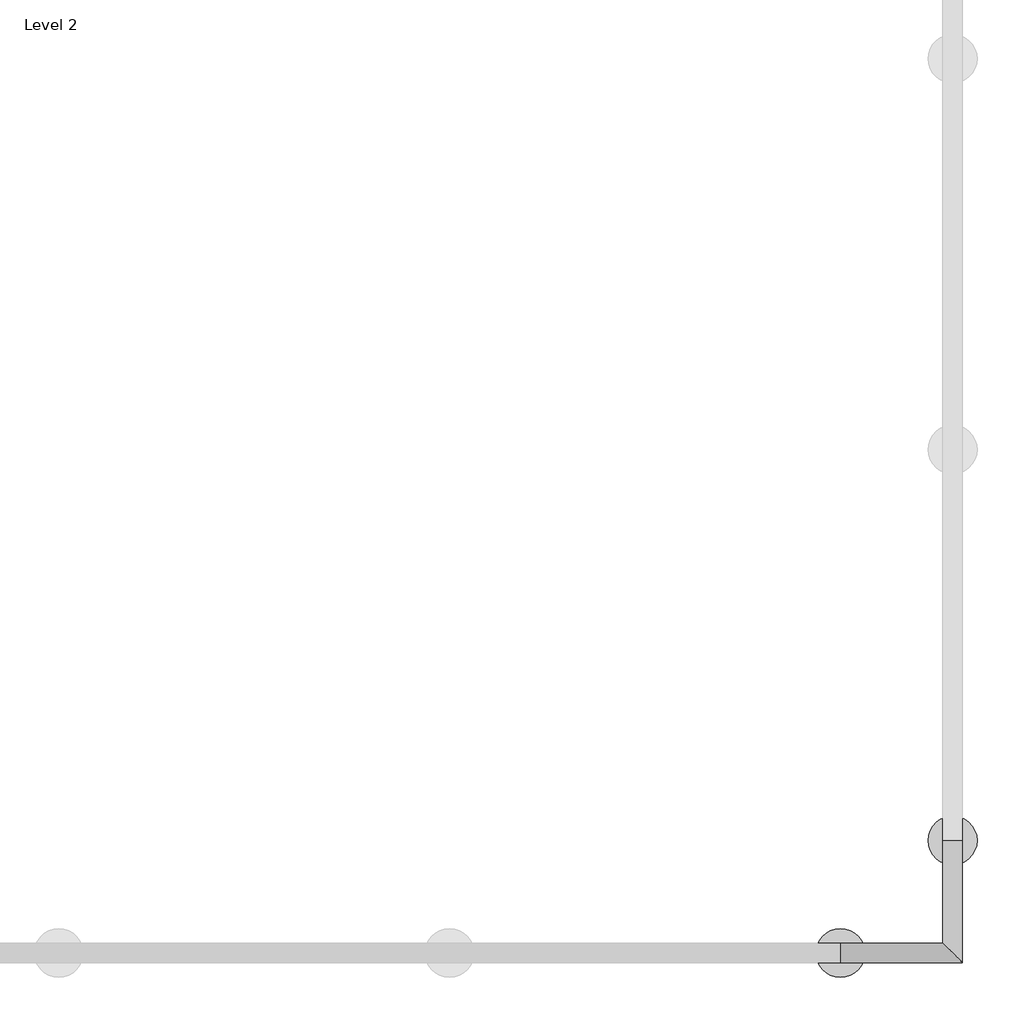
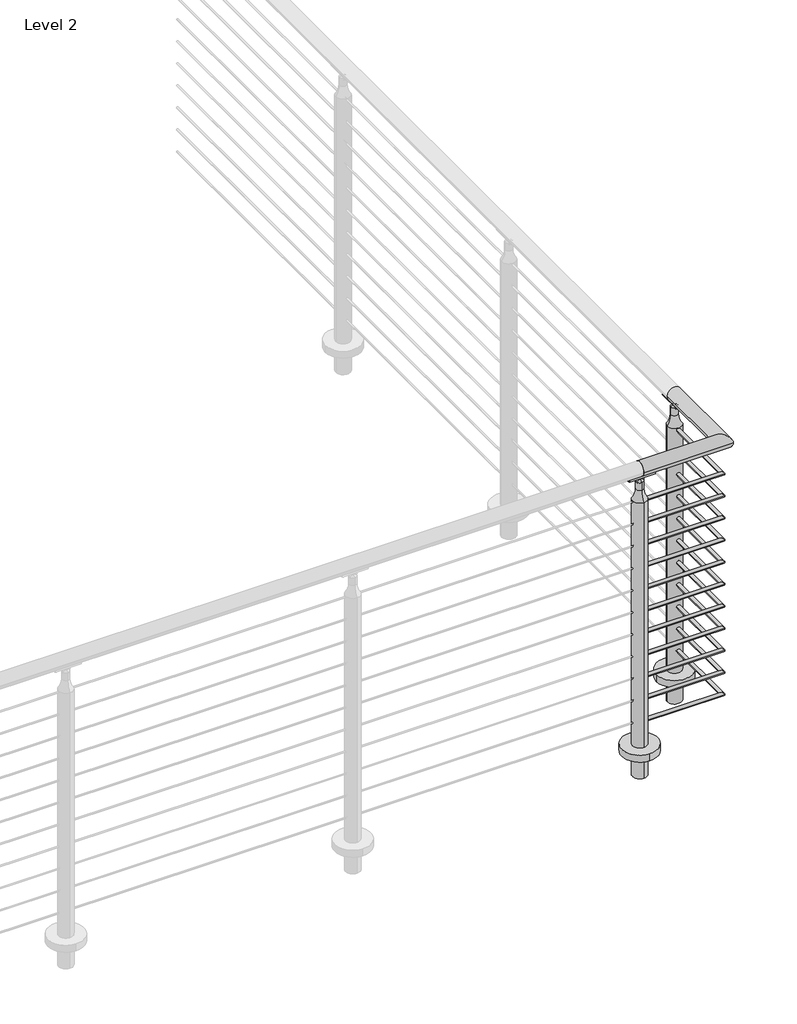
# One storey, part 20 of 21: 1 railing.
"""IFC4 building model written with IfcOpenShell, lengths in millimetres."""

from ifc_helpers import new_model, si_unit, point, frame, frame_2d, origin, place, context, project, spatial, polyline, circle_curve, ellipse_curve, trimmed, segment, composite_curve, outline, extrude, element, save
from ifc_brep_helpers import plane_surface, cylinder_surface, revolved_surface, advanced_brep

model = new_model("IFC4")

# Units and contexts
model_context = context("Model", 3, world=origin())
ifc_project = project(units=[si_unit("LENGTHUNIT", "METRE", prefix="MILLI")], contexts=[model_context])

# Site, building, storey
site = spatial("IfcSite", under=ifc_project)
building = spatial("IfcBuilding", under=site)
storey = spatial("IfcBuildingStorey", under=building, Name="Level 2", Elevation=3048.0)

# Railing
placement = place(None, origin())
element("IfcRailing", 1, ObjectType="VIVA-CIRCA-Cable-Core Mount-Corner", at=placement, inside=storey, context=model_context, shape_type="SolidModel", body=[
    advanced_brep(
    [(70803.1810647, -52130.1426165, 4102.1), (70803.1810647, -52079.3426165, 4102.1), (71120.6810647, -52130.1426165, 4102.1), (71069.8810647, -52079.3426165, 4102.1), (71120.6810647, -51812.6426165, 4102.1), (71069.8810647, -51812.6426165, 4102.1)],
    [
        (0, 1, circle_curve(frame((70803.1810647, -52104.7426165, 4102.1), z_axis=(-1.0, 0.0, 0.0), x_axis=(0.0, 1.0, 0.0)), 25.4)),
        (1, 0, circle_curve(frame((70803.1810647, -52104.7426165, 4102.1), z_axis=(-1.0, 0.0, 0.0), x_axis=(0.0, 1.0, 0.0)), 25.4)),
        (0, 2),
        (2, 3, ellipse_curve(frame((71095.2810647, -52104.7426165, 4102.1), z_axis=(-0.7071067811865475, -0.7071067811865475, 0.0), x_axis=(-0.7071067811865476, 0.7071067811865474, 0.0)), 35.9210245, 25.4)),
        (3, 1),
        (3, 2, ellipse_curve(frame((71095.2810647, -52104.7426165, 4102.1), z_axis=(-0.7071067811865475, -0.7071067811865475, 0.0), x_axis=(-0.7071067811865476, 0.7071067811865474, 0.0)), 35.9210245, 25.4)),
        (4, 5, circle_curve(frame((71095.2810647, -51812.6426165, 4102.1), z_axis=(0.0, 1.0, 0.0), x_axis=(-1.0, 0.0, 0.0)), 25.4)),
        (5, 4, circle_curve(frame((71095.2810647, -51812.6426165, 4102.1), z_axis=(0.0, 1.0, 0.0), x_axis=(-1.0, 0.0, 0.0)), 25.4)),
        (2, 4),
        (5, 3),
    ],
    [
        plane_surface(frame((70803.1810647, -52104.7426165, 4127.5), z_axis=(-1.0, 0.0, 0.0), x_axis=(0.0, 1.0, 0.0))),
        cylinder_surface(frame((70803.1810647, -52104.7426165, 4102.1), z_axis=(-1.0, 0.0, 0.0), x_axis=(0.0, 1.0, 0.0)), 25.4),
        plane_surface(frame((71095.2810647, -51812.6426165, 4127.5), z_axis=(0.0, 1.0, 0.0), x_axis=(0.0, 0.0, 1.0))),
        cylinder_surface(frame((71095.2810647, -52104.7426165, 4102.1), z_axis=(0.0, -1.0, 0.0), x_axis=(-1.0, 0.0, 0.0)), 25.4),
    ],
    [
        (0, [[1, 2]]),
        (1, [[-1, 3, 4, 5]]),
        (1, [[-2, -5, 6, -3]]),
        (2, [[7, 8]]),
        (3, [[-4, 9, -8, 10]]),
        (3, [[-6, -10, -7, -9]]),
    ],
),
    advanced_brep(
    [(70803.1810647, -52098.3926165, 3981.45), (70803.1810647, -52111.0926165, 3981.45), (71088.9310647, -52098.3926165, 3981.45), (71101.6310647, -52111.0926165, 3981.45), (71088.9310647, -51812.6426165, 3981.45), (71101.6310647, -51812.6426165, 3981.45)],
    [
        (0, 1, circle_curve(frame((70803.1810647, -52104.7426165, 3981.45), z_axis=(-1.0, 0.0, 0.0), x_axis=(0.0, -1.0, 0.0)), 6.35)),
        (1, 0, circle_curve(frame((70803.1810647, -52104.7426165, 3981.45), z_axis=(-1.0, 0.0, 0.0), x_axis=(0.0, -1.0, 0.0)), 6.35)),
        (0, 2),
        (2, 3, ellipse_curve(frame((71095.2810647, -52104.7426165, 3981.45), z_axis=(-0.7071067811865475, -0.7071067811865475, 0.0), x_axis=(-0.7071067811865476, 0.7071067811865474, 0.0)), 8.9802561, 6.35)),
        (3, 1),
        (3, 2, ellipse_curve(frame((71095.2810647, -52104.7426165, 3981.45), z_axis=(-0.7071067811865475, -0.7071067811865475, 0.0), x_axis=(-0.7071067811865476, 0.7071067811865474, 0.0)), 8.9802561, 6.35)),
        (4, 5, circle_curve(frame((71095.2810647, -51812.6426165, 3981.45), z_axis=(0.0, 1.0, 0.0), x_axis=(1.0, 0.0, 0.0)), 6.35)),
        (5, 4, circle_curve(frame((71095.2810647, -51812.6426165, 3981.45), z_axis=(0.0, 1.0, 0.0), x_axis=(1.0, 0.0, 0.0)), 6.35)),
        (2, 4),
        (5, 3),
    ],
    [
        plane_surface(frame((70803.1810647, -52104.7426165, 3987.8), z_axis=(-1.0, 0.0, 0.0), x_axis=(0.0, 1.0, 0.0))),
        cylinder_surface(frame((70803.1810647, -52104.7426165, 3981.45), z_axis=(-1.0, 0.0, 0.0), x_axis=(0.0, -1.0, 0.0)), 6.35),
        plane_surface(frame((71095.2810647, -51812.6426165, 3987.8), z_axis=(0.0, 1.0, 0.0), x_axis=(0.0, 0.0, 1.0))),
        cylinder_surface(frame((71095.2810647, -52104.7426165, 3981.45), z_axis=(0.0, -1.0, 0.0), x_axis=(1.0, 0.0, 0.0)), 6.35),
    ],
    [
        (0, [[1, 2]]),
        (1, [[-1, 3, 4, 5]]),
        (1, [[-2, -5, 6, -3]]),
        (2, [[7, 8]]),
        (3, [[-4, 9, -8, 10]]),
        (3, [[-6, -10, -7, -9]]),
    ],
),
    advanced_brep(
    [(70803.1810647, -52098.3926165, 3898.9), (70803.1810647, -52111.0926165, 3898.9), (71088.9310647, -52098.3926165, 3898.9), (71101.6310647, -52111.0926165, 3898.9), (71088.9310647, -51812.6426165, 3898.9), (71101.6310647, -51812.6426165, 3898.9)],
    [
        (0, 1, circle_curve(frame((70803.1810647, -52104.7426165, 3898.9), z_axis=(-1.0, 0.0, 0.0), x_axis=(0.0, -1.0, 0.0)), 6.35)),
        (1, 0, circle_curve(frame((70803.1810647, -52104.7426165, 3898.9), z_axis=(-1.0, 0.0, 0.0), x_axis=(0.0, -1.0, 0.0)), 6.35)),
        (0, 2),
        (2, 3, ellipse_curve(frame((71095.2810647, -52104.7426165, 3898.9), z_axis=(-0.7071067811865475, -0.7071067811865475, 0.0), x_axis=(-0.7071067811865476, 0.7071067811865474, 0.0)), 8.9802561, 6.35)),
        (3, 1),
        (3, 2, ellipse_curve(frame((71095.2810647, -52104.7426165, 3898.9), z_axis=(-0.7071067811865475, -0.7071067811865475, 0.0), x_axis=(-0.7071067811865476, 0.7071067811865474, 0.0)), 8.9802561, 6.35)),
        (4, 5, circle_curve(frame((71095.2810647, -51812.6426165, 3898.9), z_axis=(0.0, 1.0, 0.0), x_axis=(1.0, 0.0, 0.0)), 6.35)),
        (5, 4, circle_curve(frame((71095.2810647, -51812.6426165, 3898.9), z_axis=(0.0, 1.0, 0.0), x_axis=(1.0, 0.0, 0.0)), 6.35)),
        (2, 4),
        (5, 3),
    ],
    [
        plane_surface(frame((70803.1810647, -52104.7426165, 3905.25), z_axis=(-1.0, 0.0, 0.0), x_axis=(0.0, 1.0, 0.0))),
        cylinder_surface(frame((70803.1810647, -52104.7426165, 3898.9), z_axis=(-1.0, 0.0, 0.0), x_axis=(0.0, -1.0, 0.0)), 6.35),
        plane_surface(frame((71095.2810647, -51812.6426165, 3905.25), z_axis=(0.0, 1.0, 0.0), x_axis=(0.0, 0.0, 1.0))),
        cylinder_surface(frame((71095.2810647, -52104.7426165, 3898.9), z_axis=(0.0, -1.0, 0.0), x_axis=(1.0, 0.0, 0.0)), 6.35),
    ],
    [
        (0, [[1, 2]]),
        (1, [[-1, 3, 4, 5]]),
        (1, [[-2, -5, 6, -3]]),
        (2, [[7, 8]]),
        (3, [[-4, 9, -8, 10]]),
        (3, [[-6, -10, -7, -9]]),
    ],
),
    advanced_brep(
    [(70803.1810647, -52098.3926165, 3816.35), (70803.1810647, -52111.0926165, 3816.35), (71088.9310647, -52098.3926165, 3816.35), (71101.6310647, -52111.0926165, 3816.35), (71088.9310647, -51812.6426165, 3816.35), (71101.6310647, -51812.6426165, 3816.35)],
    [
        (0, 1, circle_curve(frame((70803.1810647, -52104.7426165, 3816.35), z_axis=(-1.0, 0.0, 0.0), x_axis=(0.0, -1.0, 0.0)), 6.35)),
        (1, 0, circle_curve(frame((70803.1810647, -52104.7426165, 3816.35), z_axis=(-1.0, 0.0, 0.0), x_axis=(0.0, -1.0, 0.0)), 6.35)),
        (0, 2),
        (2, 3, ellipse_curve(frame((71095.2810647, -52104.7426165, 3816.35), z_axis=(-0.7071067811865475, -0.7071067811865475, 0.0), x_axis=(-0.7071067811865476, 0.7071067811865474, 0.0)), 8.9802561, 6.35)),
        (3, 1),
        (3, 2, ellipse_curve(frame((71095.2810647, -52104.7426165, 3816.35), z_axis=(-0.7071067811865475, -0.7071067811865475, 0.0), x_axis=(-0.7071067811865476, 0.7071067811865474, 0.0)), 8.9802561, 6.35)),
        (4, 5, circle_curve(frame((71095.2810647, -51812.6426165, 3816.35), z_axis=(0.0, 1.0, 0.0), x_axis=(1.0, 0.0, 0.0)), 6.35)),
        (5, 4, circle_curve(frame((71095.2810647, -51812.6426165, 3816.35), z_axis=(0.0, 1.0, 0.0), x_axis=(1.0, 0.0, 0.0)), 6.35)),
        (2, 4),
        (5, 3),
    ],
    [
        plane_surface(frame((70803.1810647, -52104.7426165, 3822.7), z_axis=(-1.0, 0.0, 0.0), x_axis=(0.0, 1.0, 0.0))),
        cylinder_surface(frame((70803.1810647, -52104.7426165, 3816.35), z_axis=(-1.0, 0.0, 0.0), x_axis=(0.0, -1.0, 0.0)), 6.35),
        plane_surface(frame((71095.2810647, -51812.6426165, 3822.7), z_axis=(0.0, 1.0, 0.0), x_axis=(0.0, 0.0, 1.0))),
        cylinder_surface(frame((71095.2810647, -52104.7426165, 3816.35), z_axis=(0.0, -1.0, 0.0), x_axis=(1.0, 0.0, 0.0)), 6.35),
    ],
    [
        (0, [[1, 2]]),
        (1, [[-1, 3, 4, 5]]),
        (1, [[-2, -5, 6, -3]]),
        (2, [[7, 8]]),
        (3, [[-4, 9, -8, 10]]),
        (3, [[-6, -10, -7, -9]]),
    ],
),
    advanced_brep(
    [(70803.1810647, -52098.3926165, 3733.8), (70803.1810647, -52111.0926165, 3733.8), (71088.9310647, -52098.3926165, 3733.8), (71101.6310647, -52111.0926165, 3733.8), (71088.9310647, -51812.6426165, 3733.8), (71101.6310647, -51812.6426165, 3733.8)],
    [
        (0, 1, circle_curve(frame((70803.1810647, -52104.7426165, 3733.8), z_axis=(-1.0, 0.0, 0.0), x_axis=(0.0, -1.0, 0.0)), 6.35)),
        (1, 0, circle_curve(frame((70803.1810647, -52104.7426165, 3733.8), z_axis=(-1.0, 0.0, 0.0), x_axis=(0.0, -1.0, 0.0)), 6.35)),
        (0, 2),
        (2, 3, ellipse_curve(frame((71095.2810647, -52104.7426165, 3733.8), z_axis=(-0.7071067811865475, -0.7071067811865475, 0.0), x_axis=(-0.7071067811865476, 0.7071067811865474, 0.0)), 8.9802561, 6.35)),
        (3, 1),
        (3, 2, ellipse_curve(frame((71095.2810647, -52104.7426165, 3733.8), z_axis=(-0.7071067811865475, -0.7071067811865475, 0.0), x_axis=(-0.7071067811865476, 0.7071067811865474, 0.0)), 8.9802561, 6.35)),
        (4, 5, circle_curve(frame((71095.2810647, -51812.6426165, 3733.8), z_axis=(0.0, 1.0, 0.0), x_axis=(1.0, 0.0, 0.0)), 6.35)),
        (5, 4, circle_curve(frame((71095.2810647, -51812.6426165, 3733.8), z_axis=(0.0, 1.0, 0.0), x_axis=(1.0, 0.0, 0.0)), 6.35)),
        (2, 4),
        (5, 3),
    ],
    [
        plane_surface(frame((70803.1810647, -52104.7426165, 3740.15), z_axis=(-1.0, 0.0, 0.0), x_axis=(0.0, 1.0, 0.0))),
        cylinder_surface(frame((70803.1810647, -52104.7426165, 3733.8), z_axis=(-1.0, 0.0, 0.0), x_axis=(0.0, -1.0, 0.0)), 6.35),
        plane_surface(frame((71095.2810647, -51812.6426165, 3740.15), z_axis=(0.0, 1.0, 0.0), x_axis=(0.0, 0.0, 1.0))),
        cylinder_surface(frame((71095.2810647, -52104.7426165, 3733.8), z_axis=(0.0, -1.0, 0.0), x_axis=(1.0, 0.0, 0.0)), 6.35),
    ],
    [
        (0, [[1, 2]]),
        (1, [[-1, 3, 4, 5]]),
        (1, [[-2, -5, 6, -3]]),
        (2, [[7, 8]]),
        (3, [[-4, 9, -8, 10]]),
        (3, [[-6, -10, -7, -9]]),
    ],
),
    advanced_brep(
    [(70803.1810647, -52098.3926165, 3651.25), (70803.1810647, -52111.0926165, 3651.25), (71088.9310647, -52098.3926165, 3651.25), (71101.6310647, -52111.0926165, 3651.25), (71088.9310647, -51812.6426165, 3651.25), (71101.6310647, -51812.6426165, 3651.25)],
    [
        (0, 1, circle_curve(frame((70803.1810647, -52104.7426165, 3651.25), z_axis=(-1.0, 0.0, 0.0), x_axis=(0.0, -1.0, 0.0)), 6.35)),
        (1, 0, circle_curve(frame((70803.1810647, -52104.7426165, 3651.25), z_axis=(-1.0, 0.0, 0.0), x_axis=(0.0, -1.0, 0.0)), 6.35)),
        (0, 2),
        (2, 3, ellipse_curve(frame((71095.2810647, -52104.7426165, 3651.25), z_axis=(-0.7071067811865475, -0.7071067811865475, 0.0), x_axis=(-0.7071067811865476, 0.7071067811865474, 0.0)), 8.9802561, 6.35)),
        (3, 1),
        (3, 2, ellipse_curve(frame((71095.2810647, -52104.7426165, 3651.25), z_axis=(-0.7071067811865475, -0.7071067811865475, 0.0), x_axis=(-0.7071067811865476, 0.7071067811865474, 0.0)), 8.9802561, 6.35)),
        (4, 5, circle_curve(frame((71095.2810647, -51812.6426165, 3651.25), z_axis=(0.0, 1.0, 0.0), x_axis=(1.0, 0.0, 0.0)), 6.35)),
        (5, 4, circle_curve(frame((71095.2810647, -51812.6426165, 3651.25), z_axis=(0.0, 1.0, 0.0), x_axis=(1.0, 0.0, 0.0)), 6.35)),
        (2, 4),
        (5, 3),
    ],
    [
        plane_surface(frame((70803.1810647, -52104.7426165, 3657.6), z_axis=(-1.0, 0.0, 0.0), x_axis=(0.0, 1.0, 0.0))),
        cylinder_surface(frame((70803.1810647, -52104.7426165, 3651.25), z_axis=(-1.0, 0.0, 0.0), x_axis=(0.0, -1.0, 0.0)), 6.35),
        plane_surface(frame((71095.2810647, -51812.6426165, 3657.6), z_axis=(0.0, 1.0, 0.0), x_axis=(0.0, 0.0, 1.0))),
        cylinder_surface(frame((71095.2810647, -52104.7426165, 3651.25), z_axis=(0.0, -1.0, 0.0), x_axis=(1.0, 0.0, 0.0)), 6.35),
    ],
    [
        (0, [[1, 2]]),
        (1, [[-1, 3, 4, 5]]),
        (1, [[-2, -5, 6, -3]]),
        (2, [[7, 8]]),
        (3, [[-4, 9, -8, 10]]),
        (3, [[-6, -10, -7, -9]]),
    ],
),
    advanced_brep(
    [(70803.1810647, -52098.3926165, 3568.7), (70803.1810647, -52111.0926165, 3568.7), (71088.9310647, -52098.3926165, 3568.7), (71101.6310647, -52111.0926165, 3568.7), (71088.9310647, -51812.6426165, 3568.7), (71101.6310647, -51812.6426165, 3568.7)],
    [
        (0, 1, circle_curve(frame((70803.1810647, -52104.7426165, 3568.7), z_axis=(-1.0, 0.0, 0.0), x_axis=(0.0, -1.0, 0.0)), 6.35)),
        (1, 0, circle_curve(frame((70803.1810647, -52104.7426165, 3568.7), z_axis=(-1.0, 0.0, 0.0), x_axis=(0.0, -1.0, 0.0)), 6.35)),
        (0, 2),
        (2, 3, ellipse_curve(frame((71095.2810647, -52104.7426165, 3568.7), z_axis=(-0.7071067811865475, -0.7071067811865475, 0.0), x_axis=(-0.7071067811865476, 0.7071067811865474, 0.0)), 8.9802561, 6.35)),
        (3, 1),
        (3, 2, ellipse_curve(frame((71095.2810647, -52104.7426165, 3568.7), z_axis=(-0.7071067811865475, -0.7071067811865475, 0.0), x_axis=(-0.7071067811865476, 0.7071067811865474, 0.0)), 8.9802561, 6.35)),
        (4, 5, circle_curve(frame((71095.2810647, -51812.6426165, 3568.7), z_axis=(0.0, 1.0, 0.0), x_axis=(1.0, 0.0, 0.0)), 6.35)),
        (5, 4, circle_curve(frame((71095.2810647, -51812.6426165, 3568.7), z_axis=(0.0, 1.0, 0.0), x_axis=(1.0, 0.0, 0.0)), 6.35)),
        (2, 4),
        (5, 3),
    ],
    [
        plane_surface(frame((70803.1810647, -52104.7426165, 3575.05), z_axis=(-1.0, 0.0, 0.0), x_axis=(0.0, 1.0, 0.0))),
        cylinder_surface(frame((70803.1810647, -52104.7426165, 3568.7), z_axis=(-1.0, 0.0, 0.0), x_axis=(0.0, -1.0, 0.0)), 6.35),
        plane_surface(frame((71095.2810647, -51812.6426165, 3575.05), z_axis=(0.0, 1.0, 0.0), x_axis=(0.0, 0.0, 1.0))),
        cylinder_surface(frame((71095.2810647, -52104.7426165, 3568.7), z_axis=(0.0, -1.0, 0.0), x_axis=(1.0, 0.0, 0.0)), 6.35),
    ],
    [
        (0, [[1, 2]]),
        (1, [[-1, 3, 4, 5]]),
        (1, [[-2, -5, 6, -3]]),
        (2, [[7, 8]]),
        (3, [[-4, 9, -8, 10]]),
        (3, [[-6, -10, -7, -9]]),
    ],
),
    advanced_brep(
    [(70803.1810647, -52098.3926165, 3486.15), (70803.1810647, -52111.0926165, 3486.15), (71088.9310647, -52098.3926165, 3486.15), (71101.6310647, -52111.0926165, 3486.15), (71088.9310647, -51812.6426165, 3486.15), (71101.6310647, -51812.6426165, 3486.15)],
    [
        (0, 1, circle_curve(frame((70803.1810647, -52104.7426165, 3486.15), z_axis=(-1.0, 0.0, 0.0), x_axis=(0.0, -1.0, 0.0)), 6.35)),
        (1, 0, circle_curve(frame((70803.1810647, -52104.7426165, 3486.15), z_axis=(-1.0, 0.0, 0.0), x_axis=(0.0, -1.0, 0.0)), 6.35)),
        (0, 2),
        (2, 3, ellipse_curve(frame((71095.2810647, -52104.7426165, 3486.15), z_axis=(-0.7071067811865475, -0.7071067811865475, 0.0), x_axis=(-0.7071067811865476, 0.7071067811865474, 0.0)), 8.9802561, 6.35)),
        (3, 1),
        (3, 2, ellipse_curve(frame((71095.2810647, -52104.7426165, 3486.15), z_axis=(-0.7071067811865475, -0.7071067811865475, 0.0), x_axis=(-0.7071067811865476, 0.7071067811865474, 0.0)), 8.9802561, 6.35)),
        (4, 5, circle_curve(frame((71095.2810647, -51812.6426165, 3486.15), z_axis=(0.0, 1.0, 0.0), x_axis=(1.0, 0.0, 0.0)), 6.35)),
        (5, 4, circle_curve(frame((71095.2810647, -51812.6426165, 3486.15), z_axis=(0.0, 1.0, 0.0), x_axis=(1.0, 0.0, 0.0)), 6.35)),
        (2, 4),
        (5, 3),
    ],
    [
        plane_surface(frame((70803.1810647, -52104.7426165, 3492.5), z_axis=(-1.0, 0.0, 0.0), x_axis=(0.0, 1.0, 0.0))),
        cylinder_surface(frame((70803.1810647, -52104.7426165, 3486.15), z_axis=(-1.0, 0.0, 0.0), x_axis=(0.0, -1.0, 0.0)), 6.35),
        plane_surface(frame((71095.2810647, -51812.6426165, 3492.5), z_axis=(0.0, 1.0, 0.0), x_axis=(0.0, 0.0, 1.0))),
        cylinder_surface(frame((71095.2810647, -52104.7426165, 3486.15), z_axis=(0.0, -1.0, 0.0), x_axis=(1.0, 0.0, 0.0)), 6.35),
    ],
    [
        (0, [[1, 2]]),
        (1, [[-1, 3, 4, 5]]),
        (1, [[-2, -5, 6, -3]]),
        (2, [[7, 8]]),
        (3, [[-4, 9, -8, 10]]),
        (3, [[-6, -10, -7, -9]]),
    ],
),
    advanced_brep(
    [(70803.1810647, -52098.3926165, 3403.6), (70803.1810647, -52111.0926165, 3403.6), (71088.9310647, -52098.3926165, 3403.6), (71101.6310647, -52111.0926165, 3403.6), (71088.9310647, -51812.6426165, 3403.6), (71101.6310647, -51812.6426165, 3403.6)],
    [
        (0, 1, circle_curve(frame((70803.1810647, -52104.7426165, 3403.6), z_axis=(-1.0, 0.0, 0.0), x_axis=(0.0, -1.0, 0.0)), 6.35)),
        (1, 0, circle_curve(frame((70803.1810647, -52104.7426165, 3403.6), z_axis=(-1.0, 0.0, 0.0), x_axis=(0.0, -1.0, 0.0)), 6.35)),
        (0, 2),
        (2, 3, ellipse_curve(frame((71095.2810647, -52104.7426165, 3403.6), z_axis=(-0.7071067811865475, -0.7071067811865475, 0.0), x_axis=(-0.7071067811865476, 0.7071067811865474, 0.0)), 8.9802561, 6.35)),
        (3, 1),
        (3, 2, ellipse_curve(frame((71095.2810647, -52104.7426165, 3403.6), z_axis=(-0.7071067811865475, -0.7071067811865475, 0.0), x_axis=(-0.7071067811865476, 0.7071067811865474, 0.0)), 8.9802561, 6.35)),
        (4, 5, circle_curve(frame((71095.2810647, -51812.6426165, 3403.6), z_axis=(0.0, 1.0, 0.0), x_axis=(1.0, 0.0, 0.0)), 6.35)),
        (5, 4, circle_curve(frame((71095.2810647, -51812.6426165, 3403.6), z_axis=(0.0, 1.0, 0.0), x_axis=(1.0, 0.0, 0.0)), 6.35)),
        (2, 4),
        (5, 3),
    ],
    [
        plane_surface(frame((70803.1810647, -52104.7426165, 3409.95), z_axis=(-1.0, 0.0, 0.0), x_axis=(0.0, 1.0, 0.0))),
        cylinder_surface(frame((70803.1810647, -52104.7426165, 3403.6), z_axis=(-1.0, 0.0, 0.0), x_axis=(0.0, -1.0, 0.0)), 6.35),
        plane_surface(frame((71095.2810647, -51812.6426165, 3409.95), z_axis=(0.0, 1.0, 0.0), x_axis=(0.0, 0.0, 1.0))),
        cylinder_surface(frame((71095.2810647, -52104.7426165, 3403.6), z_axis=(0.0, -1.0, 0.0), x_axis=(1.0, 0.0, 0.0)), 6.35),
    ],
    [
        (0, [[1, 2]]),
        (1, [[-1, 3, 4, 5]]),
        (1, [[-2, -5, 6, -3]]),
        (2, [[7, 8]]),
        (3, [[-4, 9, -8, 10]]),
        (3, [[-6, -10, -7, -9]]),
    ],
),
    advanced_brep(
    [(70803.1810647, -52098.3926165, 3321.05), (70803.1810647, -52111.0926165, 3321.05), (71088.9310647, -52098.3926165, 3321.05), (71101.6310647, -52111.0926165, 3321.05), (71088.9310647, -51812.6426165, 3321.05), (71101.6310647, -51812.6426165, 3321.05)],
    [
        (0, 1, circle_curve(frame((70803.1810647, -52104.7426165, 3321.05), z_axis=(-1.0, 0.0, 0.0), x_axis=(0.0, -1.0, 0.0)), 6.35)),
        (1, 0, circle_curve(frame((70803.1810647, -52104.7426165, 3321.05), z_axis=(-1.0, 0.0, 0.0), x_axis=(0.0, -1.0, 0.0)), 6.35)),
        (0, 2),
        (2, 3, ellipse_curve(frame((71095.2810647, -52104.7426165, 3321.05), z_axis=(-0.7071067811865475, -0.7071067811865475, 0.0), x_axis=(-0.7071067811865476, 0.7071067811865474, 0.0)), 8.9802561, 6.35)),
        (3, 1),
        (3, 2, ellipse_curve(frame((71095.2810647, -52104.7426165, 3321.05), z_axis=(-0.7071067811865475, -0.7071067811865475, 0.0), x_axis=(-0.7071067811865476, 0.7071067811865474, 0.0)), 8.9802561, 6.35)),
        (4, 5, circle_curve(frame((71095.2810647, -51812.6426165, 3321.05), z_axis=(0.0, 1.0, 0.0), x_axis=(1.0, 0.0, 0.0)), 6.35)),
        (5, 4, circle_curve(frame((71095.2810647, -51812.6426165, 3321.05), z_axis=(0.0, 1.0, 0.0), x_axis=(1.0, 0.0, 0.0)), 6.35)),
        (2, 4),
        (5, 3),
    ],
    [
        plane_surface(frame((70803.1810647, -52104.7426165, 3327.4), z_axis=(-1.0, 0.0, 0.0), x_axis=(0.0, 1.0, 0.0))),
        cylinder_surface(frame((70803.1810647, -52104.7426165, 3321.05), z_axis=(-1.0, 0.0, 0.0), x_axis=(0.0, -1.0, 0.0)), 6.35),
        plane_surface(frame((71095.2810647, -51812.6426165, 3327.4), z_axis=(0.0, 1.0, 0.0), x_axis=(0.0, 0.0, 1.0))),
        cylinder_surface(frame((71095.2810647, -52104.7426165, 3321.05), z_axis=(0.0, -1.0, 0.0), x_axis=(1.0, 0.0, 0.0)), 6.35),
    ],
    [
        (0, [[1, 2]]),
        (1, [[-1, 3, 4, 5]]),
        (1, [[-2, -5, 6, -3]]),
        (2, [[7, 8]]),
        (3, [[-4, 9, -8, 10]]),
        (3, [[-6, -10, -7, -9]]),
    ],
),
    advanced_brep(
    [(70803.1810647, -52098.3926165, 3238.5), (70803.1810647, -52111.0926165, 3238.5), (71088.9310647, -52098.3926165, 3238.5), (71101.6310647, -52111.0926165, 3238.5), (71088.9310647, -51812.6426165, 3238.5), (71101.6310647, -51812.6426165, 3238.5)],
    [
        (0, 1, circle_curve(frame((70803.1810647, -52104.7426165, 3238.5), z_axis=(-1.0, 0.0, 0.0), x_axis=(0.0, -1.0, 0.0)), 6.35)),
        (1, 0, circle_curve(frame((70803.1810647, -52104.7426165, 3238.5), z_axis=(-1.0, 0.0, 0.0), x_axis=(0.0, -1.0, 0.0)), 6.35)),
        (0, 2),
        (2, 3, ellipse_curve(frame((71095.2810647, -52104.7426165, 3238.5), z_axis=(-0.7071067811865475, -0.7071067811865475, 0.0), x_axis=(-0.7071067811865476, 0.7071067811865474, 0.0)), 8.9802561, 6.35)),
        (3, 1),
        (3, 2, ellipse_curve(frame((71095.2810647, -52104.7426165, 3238.5), z_axis=(-0.7071067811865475, -0.7071067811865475, 0.0), x_axis=(-0.7071067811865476, 0.7071067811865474, 0.0)), 8.9802561, 6.35)),
        (4, 5, circle_curve(frame((71095.2810647, -51812.6426165, 3238.5), z_axis=(0.0, 1.0, 0.0), x_axis=(1.0, 0.0, 0.0)), 6.35)),
        (5, 4, circle_curve(frame((71095.2810647, -51812.6426165, 3238.5), z_axis=(0.0, 1.0, 0.0), x_axis=(1.0, 0.0, 0.0)), 6.35)),
        (2, 4),
        (5, 3),
    ],
    [
        plane_surface(frame((70803.1810647, -52104.7426165, 3244.85), z_axis=(-1.0, 0.0, 0.0), x_axis=(0.0, 1.0, 0.0))),
        cylinder_surface(frame((70803.1810647, -52104.7426165, 3238.5), z_axis=(-1.0, 0.0, 0.0), x_axis=(0.0, -1.0, 0.0)), 6.35),
        plane_surface(frame((71095.2810647, -51812.6426165, 3244.85), z_axis=(0.0, 1.0, 0.0), x_axis=(0.0, 0.0, 1.0))),
        cylinder_surface(frame((71095.2810647, -52104.7426165, 3238.5), z_axis=(0.0, -1.0, 0.0), x_axis=(1.0, 0.0, 0.0)), 6.35),
    ],
    [
        (0, [[1, 2]]),
        (1, [[-1, 3, 4, 5]]),
        (1, [[-2, -5, 6, -3]]),
        (2, [[7, 8]]),
        (3, [[-4, 9, -8, 10]]),
        (3, [[-6, -10, -7, -9]]),
    ],
),
    advanced_brep(
    [(70803.1810647, -52098.3926165, 3155.95), (70803.1810647, -52111.0926165, 3155.95), (71088.9310647, -52098.3926165, 3155.95), (71101.6310647, -52111.0926165, 3155.95), (71088.9310647, -51812.6426165, 3155.95), (71101.6310647, -51812.6426165, 3155.95)],
    [
        (0, 1, circle_curve(frame((70803.1810647, -52104.7426165, 3155.95), z_axis=(-1.0, 0.0, 0.0), x_axis=(0.0, -1.0, 0.0)), 6.35)),
        (1, 0, circle_curve(frame((70803.1810647, -52104.7426165, 3155.95), z_axis=(-1.0, 0.0, 0.0), x_axis=(0.0, -1.0, 0.0)), 6.35)),
        (0, 2),
        (2, 3, ellipse_curve(frame((71095.2810647, -52104.7426165, 3155.95), z_axis=(-0.7071067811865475, -0.7071067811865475, 0.0), x_axis=(-0.7071067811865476, 0.7071067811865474, 0.0)), 8.9802561, 6.35)),
        (3, 1),
        (3, 2, ellipse_curve(frame((71095.2810647, -52104.7426165, 3155.95), z_axis=(-0.7071067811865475, -0.7071067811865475, 0.0), x_axis=(-0.7071067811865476, 0.7071067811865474, 0.0)), 8.9802561, 6.35)),
        (4, 5, circle_curve(frame((71095.2810647, -51812.6426165, 3155.95), z_axis=(0.0, 1.0, 0.0), x_axis=(1.0, 0.0, 0.0)), 6.35)),
        (5, 4, circle_curve(frame((71095.2810647, -51812.6426165, 3155.95), z_axis=(0.0, 1.0, 0.0), x_axis=(1.0, 0.0, 0.0)), 6.35)),
        (2, 4),
        (5, 3),
    ],
    [
        plane_surface(frame((70803.1810647, -52104.7426165, 3162.3), z_axis=(-1.0, 0.0, 0.0), x_axis=(0.0, 1.0, 0.0))),
        cylinder_surface(frame((70803.1810647, -52104.7426165, 3155.95), z_axis=(-1.0, 0.0, 0.0), x_axis=(0.0, -1.0, 0.0)), 6.35),
        plane_surface(frame((71095.2810647, -51812.6426165, 3162.3), z_axis=(0.0, 1.0, 0.0), x_axis=(0.0, 0.0, 1.0))),
        cylinder_surface(frame((71095.2810647, -52104.7426165, 3155.95), z_axis=(0.0, -1.0, 0.0), x_axis=(1.0, 0.0, 0.0)), 6.35),
    ],
    [
        (0, [[1, 2]]),
        (1, [[-1, 3, 4, 5]]),
        (1, [[-2, -5, 6, -3]]),
        (2, [[7, 8]]),
        (3, [[-4, 9, -8, 10]]),
        (3, [[-6, -10, -7, -9]]),
    ],
),
    extrude(outline(composite_curve([segment(trimmed(circle_curve(frame_2d((71095.2810647, -51812.2457415)), 63.5), [point((71158.7810647, -51812.2457415))], [point((71031.7810647, -51812.2457415))], False, "CARTESIAN"), True, "CONTINUOUS"), segment(trimmed(circle_curve(frame_2d((71095.2810647, -51812.2457415)), 63.5), [point((71031.7810647, -51812.2457415))], [point((71158.7810647, -51812.2457415))], False, "CARTESIAN"), True, "CONTINUOUS")], self_intersect=False)), frame((0.0, 0.0, 3048.0), z_axis=(0.0, 0.0, 1.0), x_axis=(1.0, 0.0, 0.0)), (0.0, 0.0, 1.0), 25.4),
    extrude(outline(composite_curve([segment(trimmed(circle_curve(frame_2d((4103.4254922, 71095.1843364)), 25.4345159), [point((4081.3106679, 71107.7481393))], [point((4081.2157471, 71082.7891026))], True, "CARTESIAN"), True, "CONTINUOUS"), segment(trimmed(circle_curve(frame_2d((4078.7132623, 71081.5444495)), 2.7949225), [point((4081.2157471, 71082.7891026))], [point((4076.3406769, 71080.0671444))], False, "CARTESIAN"), True, "CONTINUOUS"), segment(trimmed(circle_curve(frame_2d((4104.1881188, 71095.3177994)), 31.75), [point((4076.3406769, 71080.0671444))], [point((4076.9214354, 71111.5840367))], False, "CARTESIAN"), True, "CONTINUOUS"), segment(trimmed(circle_curve(frame_2d((4078.7923545, 71109.2956969)), 2.9558141), [point((4076.9214354, 71111.5840367))], [point((4081.3106679, 71107.7481393))], False, "CARTESIAN"), True, "CONTINUOUS")], self_intersect=False)), frame((0.0, -51857.4831415, 0.0), z_axis=(0.0, 1.0, 0.0), x_axis=(0.0, 0.0, 1.0)), (0.0, 0.0, 1.0), 90.4748),
    advanced_brep(
    [(71092.7410647, -51785.1778267, 4072.6506908), (71092.7410647, -51799.5457415, 4058.282776), (71092.7410647, -51824.9457415, 4058.282776), (71092.7410647, -51839.3136564, 4072.6506908), (71097.8210647, -51785.1778267, 4072.6506908), (71097.8210647, -51839.3136564, 4072.6506908), (71097.8210647, -51824.9457415, 4058.282776), (71097.8210647, -51799.5457415, 4058.282776)],
    [
        (0, 1, circle_curve(frame((71092.7410647, -51785.1778267, 4058.282776), z_axis=(1.0, 0.0, 0.0), x_axis=(0.0, -1.0, 0.0)), 14.3679149)),
        (1, 2, circle_curve(frame((71092.7410647, -51812.2457415, 4058.282776), z_axis=(-1.0, 0.0, 0.0), x_axis=(0.0, -1.0, 0.0)), 12.7)),
        (2, 3, circle_curve(frame((71092.7410647, -51839.3136564, 4058.282776), z_axis=(1.0, 0.0, 0.0), x_axis=(0.0, -1.0, 0.0)), 14.3679149)),
        (3, 0),
        (4, 5),
        (5, 6, circle_curve(frame((71097.8210647, -51839.3136564, 4058.282776), z_axis=(-1.0, 0.0, 0.0), x_axis=(0.0, -1.0, 0.0)), 14.3679149)),
        (6, 7, circle_curve(frame((71097.8210647, -51812.2457415, 4058.282776), z_axis=(1.0, 0.0, 0.0), x_axis=(0.0, -1.0, 0.0)), 12.7)),
        (7, 4, circle_curve(frame((71097.8210647, -51785.1778267, 4058.282776), z_axis=(-1.0, 0.0, 0.0), x_axis=(0.0, -1.0, 0.0)), 14.3679149)),
        (0, 4),
        (7, 1),
        (6, 2),
        (5, 3),
    ],
    [
        plane_surface(frame((71092.7410647, -51799.5457415, 4058.282776), z_axis=(-1.0, 0.0, 0.0), x_axis=(0.0, 0.0, -1.0))),
        plane_surface(frame((71097.8210647, -51799.5457415, 4058.282776), z_axis=(1.0, 0.0, 0.0), x_axis=(0.0, 0.0, 1.0))),
        revolved_surface(polyline([(71097.8210647, -51799.5457416, 4058.282776), (71092.7410647, -51799.5457416, 4058.282776)]), (71097.8210647, -51785.1778267, 4058.282776), (1.0, 0.0, 0.0)),
        cylinder_surface(frame((71097.8210647, -51812.2457415, 4058.282776), z_axis=(-1.0, 0.0, 0.0), x_axis=(0.0, -1.0, 0.0)), 12.7),
        revolved_surface(polyline([(71097.8210647, -51853.6815713, 4058.282776), (71092.7410647, -51853.6815713, 4058.282776)]), (71097.8210647, -51839.3136564, 4058.282776), (1.0, 0.0, 0.0)),
        plane_surface(frame((71092.7410647, -51839.3136564, 4072.6506908), z_axis=(0.0, 0.0, 1.0), x_axis=(1.0, 0.0, 0.0))),
    ],
    [
        (0, [[1, 2, 3, 4]]),
        (1, [[5, 6, 7, 8]]),
        (2, [[-1, 9, -8, 10]]),
        (3, [[-2, -10, -7, 11]]),
        (4, [[-3, -11, -6, 12]]),
        (5, [[-4, -12, -5, -9]]),
    ],
),
    advanced_brep(
    [(71120.6804625, -51812.2457415, 3989.1347854), (71069.8816669, -51812.2457415, 3989.1347854), (71069.8816669, -51812.2457415, 2959.1), (71120.6804625, -51812.2457415, 2959.1), (71108.0190333, -51812.2457415, 4027.3486202), (71082.5430962, -51812.2457415, 4027.3486202), (71108.0190333, -51812.2457415, 4056.5779599), (71082.5430962, -51812.2457415, 4056.5779599), (71095.2810647, -51812.2457415, 4063.238668), (71095.2810647, -51812.2457415, 2959.1)],
    [
        (0, 1, circle_curve(frame((71095.2810647, -51812.2457415, 3989.1347854), z_axis=(0.0, 0.0, -1.0), x_axis=(-1.0, 0.0, 0.0)), 25.3993978)),
        (1, 2),
        (2, 3, circle_curve(frame((71095.2810647, -51812.2457415, 2959.1), z_axis=(0.0, 0.0, 1.0), x_axis=(-1.0, 0.0, 0.0)), 25.3993978)),
        (3, 0),
        (1, 0, circle_curve(frame((71095.2810647, -51812.2457415, 3989.1347854), z_axis=(0.0, 0.0, -1.0), x_axis=(-1.0, 0.0, 0.0)), 25.3993978)),
        (3, 2, circle_curve(frame((71095.2810647, -51812.2457415, 2959.1), z_axis=(0.0, 0.0, 1.0), x_axis=(-1.0, 0.0, 0.0)), 25.3993978)),
        (4, 5, circle_curve(frame((71095.2810647, -51812.2457415, 4027.3486202), z_axis=(0.0, 0.0, -1.0), x_axis=(-1.0, 0.0, 0.0)), 12.7379685)),
        (5, 1, circle_curve(frame((71018.5452279, -51812.2457415, 4027.3486202), z_axis=(0.0, 1.0, 0.0), x_axis=(-1.0, 0.0, 0.0)), 63.9978683)),
        (0, 4, circle_curve(frame((71172.0169016, -51812.2457415, 4027.3486202), z_axis=(0.0, 1.0, 0.0), x_axis=(1.0, 0.0, 0.0)), 63.9978683)),
        (5, 4, circle_curve(frame((71095.2810647, -51812.2457415, 4027.3486202), z_axis=(0.0, 0.0, -1.0), x_axis=(-1.0, 0.0, 0.0)), 12.7379685)),
        (6, 7, circle_curve(frame((71095.2810647, -51812.2457415, 4056.5779599), z_axis=(0.0, 0.0, -1.0), x_axis=(-1.0, 0.0, 0.0)), 12.7379685)),
        (7, 5),
        (4, 6),
        (7, 6, circle_curve(frame((71095.2810647, -51812.2457415, 4056.5779599), z_axis=(0.0, 0.0, -1.0), x_axis=(-1.0, 0.0, 0.0)), 12.7379685)),
        (8, 7, circle_curve(frame((71095.2810647, -51812.2457415, 4047.7282394), z_axis=(0.0, -1.0, 0.0), x_axis=(-1.0, 0.0, 0.0)), 15.5104286)),
        (6, 8, circle_curve(frame((71095.2810647, -51812.2457415, 4047.7282394), z_axis=(0.0, -1.0, 0.0), x_axis=(1.0, 0.0, 0.0)), 15.5104286)),
        (2, 9),
        (9, 3),
    ],
    [
        cylinder_surface(frame((71095.2810647, -51812.2457415, 4152.9), z_axis=(0.0, 0.0, 1.0), x_axis=(-1.0, 0.0, 0.0)), 25.3993978),
        revolved_surface(trimmed(ellipse_curve(frame((71018.5452279, -51812.2457415, 4027.3486202), z_axis=(0.0, -1.0, 0.0), x_axis=(-1.0, 0.0, 0.0)), 63.9978683, 63.9978683), [point((71069.8816669, -51812.2457415, 3989.1347854))], [point((71082.5430962, -51812.2457415, 4027.3486202))], True, "CARTESIAN"), (71095.2810647, -51812.2457415, 4152.9), (0.0, 0.0, 1.0)),
        cylinder_surface(frame((71095.2810647, -51812.2457415, 4152.9), z_axis=(0.0, 0.0, 1.0), x_axis=(-1.0, 0.0, 0.0)), 12.7379685),
        revolved_surface(trimmed(ellipse_curve(frame((71095.2810647, -51812.2457415, 4047.7282394), z_axis=(0.0, 1.0, 0.0), x_axis=(-1.0, 0.0, 0.0)), 15.5104286, 15.5104286), [point((71082.5430962, -51812.2457415, 4056.5779599))], [point((71095.2810647, -51812.2457415, 4063.238668))], True, "CARTESIAN"), (71095.2810647, -51812.2457415, 4152.9), (0.0, 0.0, 1.0)),
        plane_surface(frame((71095.2810647, -51812.2457415, 2959.1), z_axis=(0.0, 0.0, -1.0), x_axis=(-1.0, 0.0, 0.0))),
    ],
    [
        (0, [[1, 2, 3, 4]]),
        (0, [[5, -4, 6, -2]]),
        (1, [[7, 8, -1, 9]]),
        (1, [[10, -9, -5, -8]]),
        (2, [[11, 12, -7, 13]]),
        (2, [[14, -13, -10, -12]]),
        (3, [[15, -11, 16]]),
        (3, [[-16, -14, -15]]),
        (4, [[-3, 17, 18]]),
        (4, [[-6, -18, -17]]),
    ],
),
    extrude(outline(composite_curve([segment(trimmed(circle_curve(frame_2d((70803.5779397, -52104.7426165)), 63.5), [point((70803.5779397, -52168.2426165))], [point((70803.5779397, -52041.2426165))], False, "CARTESIAN"), True, "CONTINUOUS"), segment(trimmed(circle_curve(frame_2d((70803.5779397, -52104.7426165)), 63.5), [point((70803.5779397, -52041.2426165))], [point((70803.5779397, -52168.2426165))], False, "CARTESIAN"), True, "CONTINUOUS")], self_intersect=False)), frame((0.0, 0.0, 3048.0), z_axis=(0.0, 0.0, 1.0), x_axis=(1.0, 0.0, 0.0)), (0.0, 0.0, 1.0), 25.4),
    extrude(outline(composite_curve([segment(trimmed(circle_curve(frame_2d((-52104.6458882, 4103.4254922)), 25.4345159), [point((-52117.2096911, 4081.3106679))], [point((-52092.2506544, 4081.2157471))], True, "CARTESIAN"), True, "CONTINUOUS"), segment(trimmed(circle_curve(frame_2d((-52091.0060013, 4078.7132623)), 2.7949225), [point((-52092.2506544, 4081.2157471))], [point((-52089.5286962, 4076.3406769))], False, "CARTESIAN"), True, "CONTINUOUS"), segment(trimmed(circle_curve(frame_2d((-52104.7793513, 4104.1881188)), 31.75), [point((-52089.5286962, 4076.3406769))], [point((-52121.0455885, 4076.9214354))], False, "CARTESIAN"), True, "CONTINUOUS"), segment(trimmed(circle_curve(frame_2d((-52118.7572487, 4078.7923545)), 2.9558141), [point((-52121.0455885, 4076.9214354))], [point((-52117.2096911, 4081.3106679))], False, "CARTESIAN"), True, "CONTINUOUS")], self_intersect=False)), frame((70758.3405397, 0.0, 0.0), z_axis=(1.0, 0.0, 0.0), x_axis=(0.0, 1.0, 0.0)), (0.0, 0.0, 1.0), 90.4748),
    advanced_brep(
    [(70830.6458546, -52102.2026165, 4072.6506908), (70816.2779397, -52102.2026165, 4058.282776), (70790.8779397, -52102.2026165, 4058.282776), (70776.5100249, -52102.2026165, 4072.6506908), (70830.6458546, -52107.2826165, 4072.6506908), (70776.5100249, -52107.2826165, 4072.6506908), (70790.8779397, -52107.2826165, 4058.282776), (70816.2779397, -52107.2826165, 4058.282776)],
    [
        (0, 1, circle_curve(frame((70830.6458546, -52102.2026165, 4058.282776), z_axis=(0.0, -1.0, 0.0), x_axis=(-1.0, 0.0, 0.0)), 14.3679149)),
        (1, 2, circle_curve(frame((70803.5779397, -52102.2026165, 4058.282776), z_axis=(0.0, 1.0, 0.0), x_axis=(-1.0, 0.0, 0.0)), 12.7)),
        (2, 3, circle_curve(frame((70776.5100249, -52102.2026165, 4058.282776), z_axis=(0.0, -1.0, 0.0), x_axis=(-1.0, 0.0, 0.0)), 14.3679149)),
        (3, 0),
        (4, 5),
        (5, 6, circle_curve(frame((70776.5100249, -52107.2826165, 4058.282776), z_axis=(0.0, 1.0, 0.0), x_axis=(-1.0, 0.0, 0.0)), 14.3679149)),
        (6, 7, circle_curve(frame((70803.5779397, -52107.2826165, 4058.282776), z_axis=(0.0, -1.0, 0.0), x_axis=(-1.0, 0.0, 0.0)), 12.7)),
        (7, 4, circle_curve(frame((70830.6458546, -52107.2826165, 4058.282776), z_axis=(0.0, 1.0, 0.0), x_axis=(-1.0, 0.0, 0.0)), 14.3679149)),
        (0, 4),
        (7, 1),
        (6, 2),
        (5, 3),
    ],
    [
        plane_surface(frame((70816.2779397, -52102.2026165, 4058.282776), z_axis=(0.0, 1.0, 0.0), x_axis=(0.0, 0.0, -1.0))),
        plane_surface(frame((70816.2779397, -52107.2826165, 4058.282776), z_axis=(0.0, -1.0, 0.0), x_axis=(0.0, 0.0, 1.0))),
        revolved_surface(polyline([(70816.27793970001, -52107.2826165, 4058.282776), (70816.27793970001, -52102.2026165, 4058.282776)]), (70830.6458546, -52107.2826165, 4058.282776), (0.0, -1.0, 0.0)),
        cylinder_surface(frame((70803.5779397, -52107.2826165, 4058.282776), z_axis=(0.0, 1.0, 0.0), x_axis=(-1.0, 0.0, 0.0)), 12.7),
        revolved_surface(polyline([(70762.14211, -52107.2826165, 4058.282776), (70762.14211, -52102.2026165, 4058.282776)]), (70776.5100249, -52107.2826165, 4058.282776), (0.0, -1.0, 0.0)),
        plane_surface(frame((70776.5100249, -52102.2026165, 4072.6506908), z_axis=(0.0, 0.0, 1.0), x_axis=(0.0, -1.0, 0.0))),
    ],
    [
        (0, [[1, 2, 3, 4]]),
        (1, [[5, 6, 7, 8]]),
        (2, [[-1, 9, -8, 10]]),
        (3, [[-2, -10, -7, 11]]),
        (4, [[-3, -11, -6, 12]]),
        (5, [[-4, -12, -5, -9]]),
    ],
),
    advanced_brep(
    [(70803.5779397, -52130.1420143, 3989.1347854), (70803.5779397, -52079.3432187, 3989.1347854), (70803.5779397, -52079.3432187, 2959.1), (70803.5779397, -52130.1420143, 2959.1), (70803.5779397, -52117.4805851, 4027.3486202), (70803.5779397, -52092.004648, 4027.3486202), (70803.5779397, -52117.4805851, 4056.5779599), (70803.5779397, -52092.004648, 4056.5779599), (70803.5779397, -52104.7426165, 4063.238668), (70803.5779397, -52104.7426165, 2959.1)],
    [
        (0, 1, circle_curve(frame((70803.5779397, -52104.7426165, 3989.1347854), z_axis=(0.0, 0.0, -1.0), x_axis=(0.0, 1.0, 0.0)), 25.3993978)),
        (1, 2),
        (2, 3, circle_curve(frame((70803.5779397, -52104.7426165, 2959.1), z_axis=(0.0, 0.0, 1.0), x_axis=(0.0, 1.0, 0.0)), 25.3993978)),
        (3, 0),
        (1, 0, circle_curve(frame((70803.5779397, -52104.7426165, 3989.1347854), z_axis=(0.0, 0.0, -1.0), x_axis=(0.0, 1.0, 0.0)), 25.3993978)),
        (3, 2, circle_curve(frame((70803.5779397, -52104.7426165, 2959.1), z_axis=(0.0, 0.0, 1.0), x_axis=(0.0, 1.0, 0.0)), 25.3993978)),
        (4, 5, circle_curve(frame((70803.5779397, -52104.7426165, 4027.3486202), z_axis=(0.0, 0.0, -1.0), x_axis=(0.0, 1.0, 0.0)), 12.7379685)),
        (5, 1, circle_curve(frame((70803.5779397, -52028.0067797, 4027.3486202), z_axis=(1.0, 0.0, 0.0), x_axis=(0.0, 1.0, 0.0)), 63.9978683)),
        (0, 4, circle_curve(frame((70803.5779397, -52181.4784534, 4027.3486202), z_axis=(1.0, 0.0, 0.0), x_axis=(0.0, -1.0, 0.0)), 63.9978683)),
        (5, 4, circle_curve(frame((70803.5779397, -52104.7426165, 4027.3486202), z_axis=(0.0, 0.0, -1.0), x_axis=(0.0, 1.0, 0.0)), 12.7379685)),
        (6, 7, circle_curve(frame((70803.5779397, -52104.7426165, 4056.5779599), z_axis=(0.0, 0.0, -1.0), x_axis=(0.0, 1.0, 0.0)), 12.7379685)),
        (7, 5),
        (4, 6),
        (7, 6, circle_curve(frame((70803.5779397, -52104.7426165, 4056.5779599), z_axis=(0.0, 0.0, -1.0), x_axis=(0.0, 1.0, 0.0)), 12.7379685)),
        (8, 7, circle_curve(frame((70803.5779397, -52104.7426165, 4047.7282394), z_axis=(-1.0, 0.0, 0.0), x_axis=(0.0, 1.0, 0.0)), 15.5104286)),
        (6, 8, circle_curve(frame((70803.5779397, -52104.7426165, 4047.7282394), z_axis=(-1.0, 0.0, 0.0), x_axis=(0.0, -1.0, 0.0)), 15.5104286)),
        (2, 9),
        (9, 3),
    ],
    [
        cylinder_surface(frame((70803.5779397, -52104.7426165, 4152.9), z_axis=(0.0, 0.0, 1.0), x_axis=(0.0, 1.0, 0.0)), 25.3993978),
        revolved_surface(trimmed(ellipse_curve(frame((70803.5779397, -52028.0067797, 4027.3486202), z_axis=(-1.0, 0.0, 0.0), x_axis=(0.0, 1.0, 0.0)), 63.9978683, 63.9978683), [point((70803.5779397, -52079.3432187, 3989.1347854))], [point((70803.5779397, -52092.004648, 4027.3486202))], True, "CARTESIAN"), (70803.5779397, -52104.7426165, 4152.9), (0.0, 0.0, 1.0)),
        cylinder_surface(frame((70803.5779397, -52104.7426165, 4152.9), z_axis=(0.0, 0.0, 1.0), x_axis=(0.0, 1.0, 0.0)), 12.7379685),
        revolved_surface(trimmed(ellipse_curve(frame((70803.5779397, -52104.7426165, 4047.7282394), z_axis=(1.0, 0.0, 0.0), x_axis=(0.0, 1.0, 0.0)), 15.5104286, 15.5104286), [point((70803.5779397, -52092.004648, 4056.5779599))], [point((70803.5779397, -52104.7426165, 4063.238668))], True, "CARTESIAN"), (70803.5779397, -52104.7426165, 4152.9), (0.0, 0.0, 1.0)),
        plane_surface(frame((70803.5779397, -52104.7426165, 2959.1), z_axis=(0.0, 0.0, -1.0), x_axis=(0.0, 1.0, 0.0))),
    ],
    [
        (0, [[1, 2, 3, 4]]),
        (0, [[5, -4, 6, -2]]),
        (1, [[7, 8, -1, 9]]),
        (1, [[10, -9, -5, -8]]),
        (2, [[11, 12, -7, 13]]),
        (2, [[14, -13, -10, -12]]),
        (3, [[15, -11, 16]]),
        (3, [[-16, -14, -15]]),
        (4, [[-3, 17, 18]]),
        (4, [[-6, -18, -17]]),
    ],
),
])

save(model, "model.ifc")
